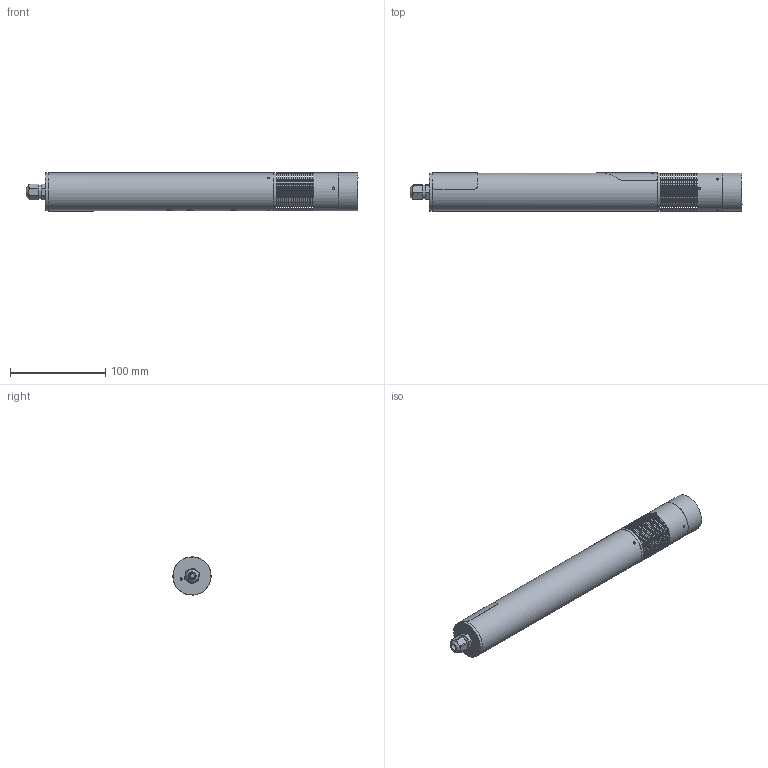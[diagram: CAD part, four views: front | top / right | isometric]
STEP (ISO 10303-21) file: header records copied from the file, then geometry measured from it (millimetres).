
FILE_DESCRIPTION( ( 'Unknown' ), '1' );
FILE_NAME( 'O:/Projekte/Geräte/100239900_ZRG-F/Mechanik/STEP/ZRG_F.stp', 'Unknown', ( 'Unknown' ), ( 'Unknown' ), 'PSStep 15.0.49', 'Unknown', ' ' );
FILE_SCHEMA( ( 'AUTOMOTIVE_DESIGN { 1 0 10303 214 1 1 1 1 }' ) );
Length unit declared in the file: millimetre
Products named in the file (14): Assem1; 100275101_ZRG-F_Kühlrohr_Vers_B-oa0; 100034200_ZR_Kopfstueck_Vers_G-oa1; 1200130_Glasscheibe_ø14,5x1; 0100450_Glasscheibenhalter-oa2; 100000338_Aussenrohr_40x237_Vers_D-oa3; 0100350_Endkappe_Vers_C; 1700052_Stablinsenhalter_sym_5_Vers_A-oa4; 0613162_Zyl_Inbus_M3x16_DIN_912_verzinkt_selbstsichernd; 0623060_SenkInbus_M3x6_DIN_7991; 100275002_ZRG-F_Abdichtkappe_M8x1_Vers_C-oa5; 3500091_Kabelverschraubung_M12x1,5; 0700140_Typenschild_62x47_gebogen_ø40; 0700170_Laserwarnaufkleber_45x65_gebogen_ø40
Assembly tree (16 placements, depth 2):
  Assem1
    100275101_ZRG-F_Kühlrohr_Vers_B-oa0
    100034200_ZR_Kopfstueck_Vers_G-oa1
    1200130_Glasscheibe_ø14,5x1
    0100450_Glasscheibenhalter-oa2
    100000338_Aussenrohr_40x237_Vers_D-oa3
    0100350_Endkappe_Vers_C
    1700052_Stablinsenhalter_sym_5_Vers_A-oa4
    0613162_Zyl_Inbus_M3x16_DIN_912_verzinkt_selbstsichernd  x2
    0623060_SenkInbus_M3x6_DIN_7991  x3
    100275002_ZRG-F_Abdichtkappe_M8x1_Vers_C-oa5
    3500091_Kabelverschraubung_M12x1,5
    0700140_Typenschild_62x47_gebogen_ø40
    0700170_Laserwarnaufkleber_45x65_gebogen_ø40
Bounding box: 349.19 x 40.09 x 40.09 mm (x, y, z)
Volume: 154407.9 mm3; surface area: 142588.7 mm2
Topology: 16 solids, 16 shells, 354 faces, 739 edges, 493 vertices
Faces by surface type: plane 173, cylinder 152, cone 23, torus 3, sphere 3
Full cylindrical faces by diameter (mm): 2.2 x1, 2.459 x2, 2.5 x11, 3 x5, 3.2 x6, 3.242 x1, 4 x2, 4.5 x2, 5 x1, 5.2 x1, 5.5 x2, 5.695 x3, 6 x2, 6.2 x1, 6.5 x2, 6.917 x1, 7 x1, 8 x1, 8.2 x1, 9 x1, 9.2 x1, 10 x1, 10.8 x1, 11.789 x1, 12 x1, 14 x1, 14.5 x1, 15 x3, 18 x2, 19 x1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
Entity records: 12108 total; most frequent: CARTESIAN_POINT 3024, DIRECTION 1368, ORIENTED_EDGE 960, AXIS2_PLACEMENT_3D 613, EDGE_LOOP 586, EDGE_CURVE 480, FACE_OUTER_BOUND 444, VERTEX_POINT 407
